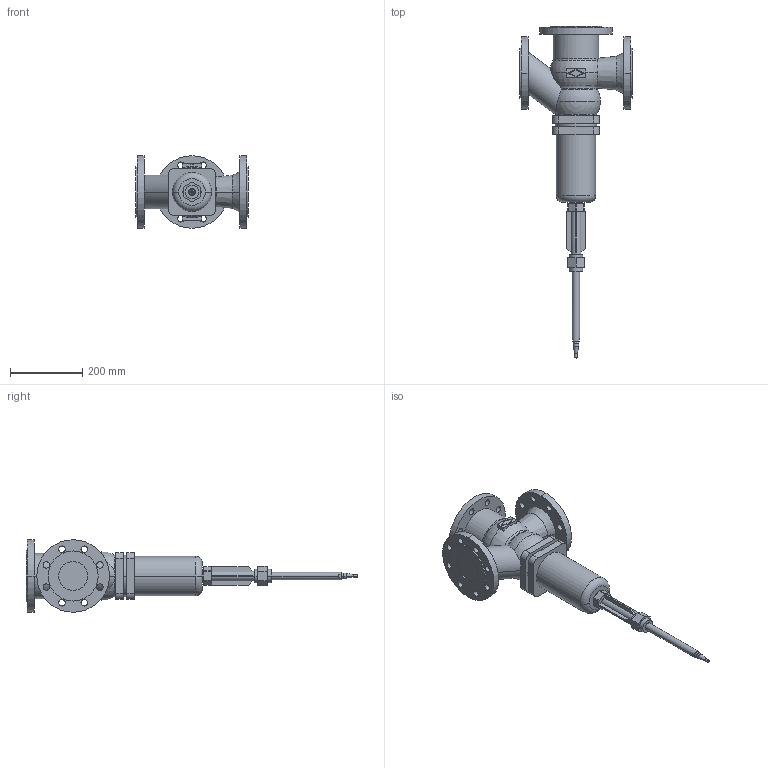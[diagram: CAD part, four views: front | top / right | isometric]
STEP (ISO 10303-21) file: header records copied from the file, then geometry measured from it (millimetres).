
FILE_DESCRIPTION(('CoCreate Modeling STEP Export'),'2;1');
FILE_NAME('c000004791.stp','2011-09-23T10:21:52',(''),(''),'CoCreate Modeling STEP processor for AP214 (Solid Model)','CoCreate Modeling 17.0 01-Apr-2010 (C) Parametric Technology GmbH','');
FILE_SCHEMA(('AUTOMOTIVE_DESIGN { 1 0 10303 214 1 1 1 1 }'));
Length unit declared in the file: millimetre
Products named in the file (1): 1
Bounding box: 310 x 916.06 x 200 mm (x, y, z)
Volume: 8649094.6 mm3; surface area: 512282.4 mm2
Topology: 1 solids, 1 shells, 226 faces, 581 edges, 375 vertices
Faces by surface type: cylinder 110, plane 88, torus 12, cone 12, sphere 4
Entity records: 8207 total; most frequent: CARTESIAN_POINT 1290, ORIENTED_EDGE 1154, DIRECTION 924, EDGE_CURVE 577, VERTEX_POINT 375, AXIS2_PLACEMENT_3D 329, EDGE_LOOP 296, VECTOR 266
